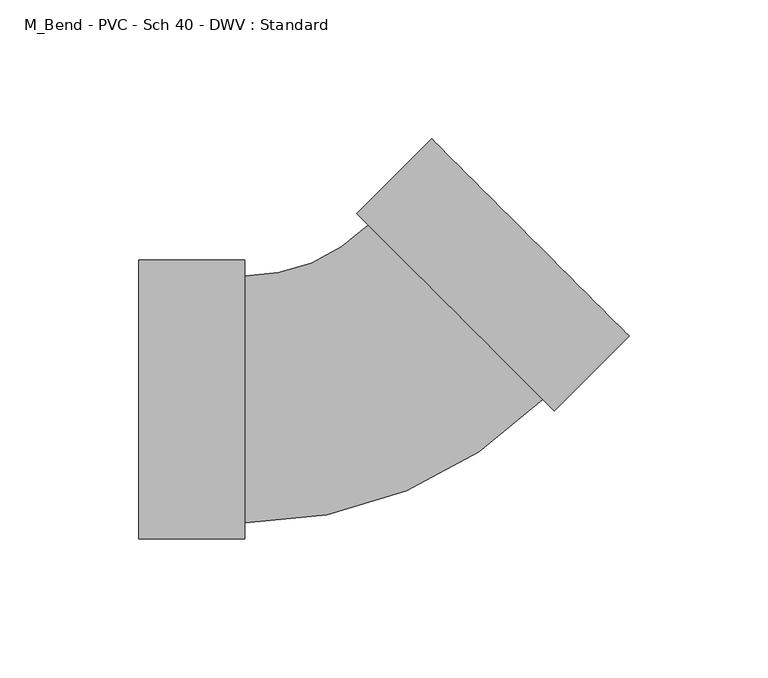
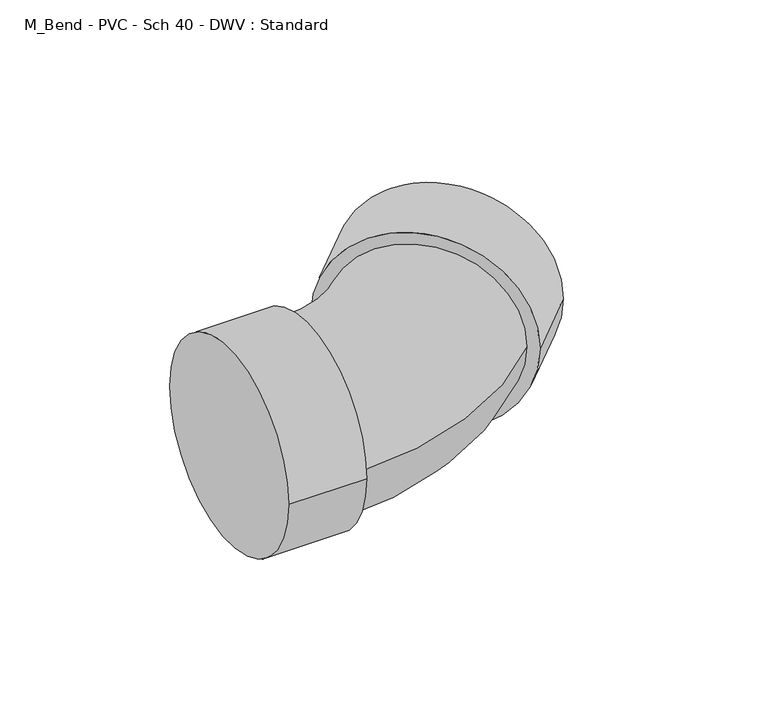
"""IFC4 building model written with IfcOpenShell, lengths in millimetres: pipe fitting geometry, M_Bend - PVC - Sch 40 - DWV : Standard."""

import ifcopenshell
import ifcopenshell.guid

model = None  # the IFC model being written
_history = None  # IfcOwnerHistory: only IFC2X3 demands one
_inside = {}  # id of a spatial element -> (the spatial element, [elements in it])
_under = {}  # id of a project, library or spatial element -> (it, [spatial elements below it])
_declared = {}  # id of a project -> (the project, [libraries it declares])
_typed = {}  # id of a type object -> (the type object, [elements of that type])
_made_of = {}  # id of a material, layer set ... -> (it, [elements and type objects made of it])


def new_model(schema):
    """Start an empty IFC model of exactly this schema.

    Asked for "IFC4X3", IfcOpenShell would pick the latest addendum, in which some entities
    have other attributes; the version numbers below select the first issue.
    IFC2X3 requires an IfcOwnerHistory on every rooted entity: one is made here for all.
    """
    global model, _history
    if schema == "IFC4X3":
        model = ifcopenshell.file(schema_version=(4, 3, 0, 0))
    else:
        model = ifcopenshell.file(schema=schema)
    _inside.clear()
    _under.clear()
    _declared.clear()
    _typed.clear()
    _made_of.clear()
    _history = None
    if model.schema == "IFC2X3":
        org = make("IfcOrganization", Name="unknown")
        user = make(
            "IfcPersonAndOrganization",
            ThePerson=make("IfcPerson", FamilyName="unknown"),
            TheOrganization=org,
        )
        app = make(
            "IfcApplication",
            ApplicationDeveloper=org,
            Version="unknown",
            ApplicationFullName="unknown",
            ApplicationIdentifier="unknown",
        )
        _history = make(
            "IfcOwnerHistory",
            OwningUser=user,
            OwningApplication=app,
            ChangeAction="ADDED",
            CreationDate=0,
        )
    return model


def make(cls, **values):
    """One entity of the class cls with the attributes given. An attribute that is None is left unset."""
    return model.create_entity(
        cls, **{name: value for name, value in values.items() if value is not None}
    )


def rooted(cls, **values):
    """An entity with a GlobalId (a new one), such as an element, a storey or a relation."""
    return make(cls, GlobalId=ifcopenshell.guid.new(), OwnerHistory=_history, **values)


def si_unit(unit_type, name, prefix=None):
    """IfcSIUnit, for example si_unit("LENGTHUNIT", "METRE", prefix="MILLI")."""
    return make("IfcSIUnit", UnitType=unit_type, Prefix=prefix, Name=name)


def assignment(units):
    """IfcUnitAssignment: the units of a project."""
    return None if units is None else make("IfcUnitAssignment", Units=units)


def point(xyz):
    """IfcCartesianPoint."""
    return None if xyz is None else make("IfcCartesianPoint", Coordinates=xyz)


def direction(xyz):
    """IfcDirection."""
    return None if xyz is None else make("IfcDirection", DirectionRatios=xyz)


def frame(location, z_axis=None, x_axis=None):
    """IfcAxis2Placement3D, a coordinate frame: its origin and axes. An axis left out is left unset."""
    return make(
        "IfcAxis2Placement3D",
        Location=point(location),
        Axis=direction(z_axis),
        RefDirection=direction(x_axis),
    )


def origin():
    """The frame at (0, 0, 0) with its axes left unset."""
    return frame((0.0, 0.0, 0.0))


def place(relative_to, where):
    """IfcLocalPlacement: puts the frame where relative to a parent placement (None: the world)."""
    return make(
        "IfcLocalPlacement", PlacementRelTo=relative_to, RelativePlacement=where
    )


def context(
    kind, dimensions, precision=None, world=None, true_north=None, identifier=None
):
    """IfcGeometricRepresentationContext, for example the 3D "Model" context."""
    return make(
        "IfcGeometricRepresentationContext",
        ContextIdentifier=identifier,
        ContextType=kind,
        CoordinateSpaceDimension=dimensions,
        Precision=precision,
        WorldCoordinateSystem=world,
        TrueNorth=true_north,
    )


def project(units=None, contexts=None):
    """IfcProject with its units and contexts."""
    return rooted(
        "IfcProject",
        Name="project",
        RepresentationContexts=contexts,
        UnitsInContext=assignment(units),
    )


def spatial(cls, under=None, at=None, **own):
    """A site, building, storey or space (cls), placed at a placement, below another one or the project."""
    s = rooted(cls, ObjectPlacement=at, **own)
    if under is not None:
        _under.setdefault(under.id(), (under, []))[1].append(s)
    return s


def circle_curve(where, radius):
    """IfcCircle in the frame where."""
    return make("IfcCircle", Position=where, Radius=radius)


def ellipse_curve(where, semi_axis1, semi_axis2):
    """IfcEllipse in the frame where."""
    return make(
        "IfcEllipse", Position=where, SemiAxis1=semi_axis1, SemiAxis2=semi_axis2
    )


def trimmed(basis, trim1, trim2, sense, master):
    """IfcTrimmedCurve: the piece of a basis curve between two trims."""
    return make(
        "IfcTrimmedCurve",
        BasisCurve=basis,
        Trim1=trim1,
        Trim2=trim2,
        SenseAgreement=sense,
        MasterRepresentation=master,
    )


def shape(context_of_items, identifier, shape_type, items):
    """IfcShapeRepresentation: the items that make up one representation, for example the "Body"."""
    return make(
        "IfcShapeRepresentation",
        ContextOfItems=context_of_items,
        RepresentationIdentifier=identifier,
        RepresentationType=shape_type,
        Items=items,
    )


def source(mapping_origin, context_of_items, identifier, shape_type, items):
    """IfcRepresentationMap: a shape defined once, which mapped items show again and again."""
    return make(
        "IfcRepresentationMap",
        MappingOrigin=mapping_origin,
        MappedRepresentation=shape(context_of_items, identifier, shape_type, items),
    )


def transform(
    local_origin,
    x_axis=None,
    y_axis=None,
    z_axis=None,
    scale=None,
    scale2=None,
    scale3=None,
    uniform=True,
):
    """IfcCartesianTransformationOperator3D, or its non-uniform kind. x_axis, y_axis, z_axis: its Axis1, 2, 3."""
    if uniform:
        return make(
            "IfcCartesianTransformationOperator3D",
            Axis1=direction(x_axis),
            Axis2=direction(y_axis),
            LocalOrigin=point(local_origin),
            Scale=scale,
            Axis3=direction(z_axis),
        )
    return make(
        "IfcCartesianTransformationOperator3DnonUniform",
        Axis1=direction(x_axis),
        Axis2=direction(y_axis),
        LocalOrigin=point(local_origin),
        Scale=scale,
        Axis3=direction(z_axis),
        Scale2=scale2,
        Scale3=scale3,
    )


def mapped(mapping_source, mapping_target):
    """IfcMappedItem: shows the shape of a source again, moved by a transform."""
    return make(
        "IfcMappedItem", MappingSource=mapping_source, MappingTarget=mapping_target
    )


def made_of(thing, what):
    """Note that an element or type object is made of a material, layer set ...; save() writes the relation."""
    if what is not None:
        _made_of.setdefault(what.id(), (what, []))[1].append(thing)
    return thing


def element(
    cls,
    number,
    at=None,
    inside=None,
    cuts=None,
    type_object=None,
    material=None,
    context=None,
    identifier="Body",
    shape_type=None,
    held_by="IfcProductDefinitionShape",
    body=None,
    shapes=None,
    **own,
):
    """One element of the class cls, such as IfcWall. Its Tag is "e" and its number.

    at: its placement. inside: the storey or other place that contains it. cuts: it is an
    opening in that element (IfcRelVoidsElement). A single representation is given by context,
    identifier, shape_type and body (its items); several are given by shapes. held_by: the class
    of the entity that holds the representations. save() writes the other relations.
    """
    e = rooted(cls, Tag="e%d" % number, ObjectPlacement=at, **own)
    if body is not None:
        shapes = [shape(context, identifier, shape_type, body)]
    if shapes is not None:
        e.Representation = make(held_by, Representations=shapes)
    if inside is not None:
        _inside.setdefault(inside.id(), (inside, []))[1].append(e)
    if cuts is not None:
        rooted(
            "IfcRelVoidsElement", RelatingBuildingElement=cuts, RelatedOpeningElement=e
        )
    if type_object is not None:
        _typed.setdefault(type_object.id(), (type_object, []))[1].append(e)
    return made_of(e, material)


def aggregate(whole, parts):
    """IfcRelAggregates: a whole, such as a stair, and the parts it consists of."""
    return rooted("IfcRelAggregates", RelatingObject=whole, RelatedObjects=parts)


def save(model, path):
    """Write the relations noted so far, then the file.

    IfcRelAggregates (storeys below a building ...), IfcRelContainedInSpatialStructure (elements
    in a storey), IfcRelDefinesByType, IfcRelAssociatesMaterial and IfcRelDeclares: one each for
    every whole, place, type object, material and project.
    """
    for whole, parts in _under.values():
        aggregate(whole, parts)
    for where, things in _inside.values():
        rooted(
            "IfcRelContainedInSpatialStructure",
            RelatedElements=things,
            RelatingStructure=where,
        )
    for kind, things in _typed.values():
        rooted("IfcRelDefinesByType", RelatedObjects=things, RelatingType=kind)
    for what, things in _made_of.values():
        rooted("IfcRelAssociatesMaterial", RelatedObjects=things, RelatingMaterial=what)
    for by, libraries in _declared.values():
        rooted("IfcRelDeclares", RelatingContext=by, RelatedDefinitions=libraries)
    model.write(path)


def plane_surface(at):
    """IfcPlane: the flat surface through the origin of the frame at, square to its z axis."""
    return make("IfcPlane", Position=at)


def cylinder_surface(at, radius):
    """IfcCylindricalSurface: all points at the distance radius from the z axis of the frame at."""
    return make("IfcCylindricalSurface", Position=at, Radius=radius)


def revolved_surface(curve, axis_point, axis_direction):
    """IfcSurfaceOfRevolution: the curve turned about the line through axis_point along axis_direction."""
    return make(
        "IfcSurfaceOfRevolution",
        SweptCurve=make("IfcArbitraryOpenProfileDef", ProfileType="CURVE", Curve=curve),
        AxisPosition=make("IfcAxis1Placement", Location=point(axis_point), Axis=direction(axis_direction)),
    )


def advanced_brep(points, edges, surfaces, faces):
    """IfcAdvancedBrep: a solid bounded by faces that lie on surfaces and meet in shared edges.

    An edge is (start, end): straight between two places in points (the first is 0);
    or (start, end, curve); or (start, end, curve, False) where it runs against its curve.
    A face is (place in surfaces, loops), or (place, loops, False) where it looks against
    its surface's normal. A loop lists edges by number (the first is 1), with a minus sign
    where the edge is run from its end to its start. The first loop is the outer one.
    """
    corners = [point(p) for p in points]
    vertices = [make("IfcVertexPoint", VertexGeometry=c) for c in corners]
    made = []
    for start, end, *more in edges:
        made.append(
            make(
                "IfcEdgeCurve",
                EdgeStart=vertices[start],
                EdgeEnd=vertices[end],
                EdgeGeometry=more[0] if more else make("IfcPolyline", Points=[corners[start], corners[end]]),
                SameSense=more[1] if len(more) > 1 else True,
            )
        )
    hull = []
    for where, loops, *sense in faces:
        bounds = []
        for j, loop in enumerate(loops):
            ring = [make("IfcOrientedEdge", EdgeElement=made[abs(k) - 1], Orientation=k > 0) for k in loop]
            bounds.append(
                make(
                    "IfcFaceOuterBound" if j == 0 else "IfcFaceBound",
                    Bound=make("IfcEdgeLoop", EdgeList=ring),
                    Orientation=True,
                )
            )
        hull.append(make("IfcAdvancedFace", Bounds=bounds, FaceSurface=surfaces[where], SameSense=sense[0] if sense else True))
    return make("IfcAdvancedBrep", Outer=make("IfcClosedShell", CfsFaces=hull))


def m_bend_pvc_sch_40_dwv_standard_4b7acc6f(model_context):
    return source(origin(), model_context, "Body", "AdvancedBrep", [
        advanced_brep(
        [(-82.55, -50.2666, 0.0), (-82.55, 50.2666, 0.0), (-44.45, -50.2666, 0.0), (-44.45, 50.2666, 0.0), (-44.45, -44.45, 0.0), (-44.45, 44.45, 0.0), (0.0, 62.8617928, 0.0), (62.8617928, 0.0, 0.0), (66.9747502, -4.1129573, 0.0), (-4.1129573, 66.9747502, 0.0), (93.9155185, 22.8278111, 0.0), (22.8278111, 93.9155185, 0.0)],
        [
            (0, 1, circle_curve(frame((-82.55, 0.0, 0.0), z_axis=(-1.0, 0.0, 0.0), x_axis=(0.0, 1.0, 0.0)), 50.2666)),
            (1, 0, circle_curve(frame((-82.55, 0.0, 0.0), z_axis=(-1.0, 0.0, 0.0), x_axis=(0.0, 1.0, 0.0)), 50.2666)),
            (2, 3, circle_curve(frame((-44.45, 0.0, 0.0), z_axis=(1.0, 0.0, 0.0), x_axis=(0.0, 1.0, 0.0)), 50.2666)),
            (3, 2, circle_curve(frame((-44.45, 0.0, 0.0), z_axis=(1.0, 0.0, 0.0), x_axis=(0.0, 1.0, 0.0)), 50.2666)),
            (4, 5, circle_curve(frame((-44.45, 0.0, 0.0), z_axis=(-1.0, 0.0, 0.0), x_axis=(0.0, 1.0, 0.0)), 44.45)),
            (5, 4, circle_curve(frame((-44.45, 0.0, 0.0), z_axis=(-1.0, 0.0, 0.0), x_axis=(0.0, 1.0, 0.0)), 44.45)),
            (0, 2),
            (3, 1),
            (6, 5, circle_curve(frame((-44.45, 107.3117928, 0.0), z_axis=(0.0, 0.0, -1.0), x_axis=(0.0, -1.0, 0.0)), 62.8617928)),
            (4, 7, circle_curve(frame((-44.45, 107.3117928, 0.0), z_axis=(0.0, 0.0, 1.0), x_axis=(0.0, -1.0, 0.0)), 151.7617928)),
            (7, 6, circle_curve(frame((31.4308964, 31.4308964, 0.0), z_axis=(-0.7071067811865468, -0.7071067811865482, 0.0), x_axis=(-0.7071067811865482, 0.7071067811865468, 0.0)), 44.45)),
            (6, 7, circle_curve(frame((31.4308964, 31.4308964, 0.0), z_axis=(-0.7071067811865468, -0.7071067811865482, 0.0), x_axis=(-0.7071067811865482, 0.7071067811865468, 0.0)), 44.45)),
            (8, 9, circle_curve(frame((31.4308964, 31.4308964, 0.0), z_axis=(-0.7071067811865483, -0.7071067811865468, 0.0), x_axis=(-0.7071067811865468, 0.7071067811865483, 0.0)), 50.2666)),
            (9, 8, circle_curve(frame((31.4308964, 31.4308964, 0.0), z_axis=(-0.7071067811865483, -0.7071067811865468, 0.0), x_axis=(-0.7071067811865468, 0.7071067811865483, 0.0)), 50.2666)),
            (10, 11, circle_curve(frame((58.3716648, 58.3716648, 0.0), z_axis=(0.7071067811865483, 0.7071067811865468, 0.0), x_axis=(-0.7071067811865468, 0.7071067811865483, 0.0)), 50.2666)),
            (11, 10, circle_curve(frame((58.3716648, 58.3716648, 0.0), z_axis=(0.7071067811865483, 0.7071067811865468, 0.0), x_axis=(-0.7071067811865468, 0.7071067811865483, 0.0)), 50.2666)),
            (8, 10),
            (11, 9),
        ],
        [
            plane_surface(frame((-82.55, 0.0, 0.0), z_axis=(-1.0, 0.0, 0.0), x_axis=(0.0, 0.0, 1.0))),
            plane_surface(frame((-44.45, 0.0, 0.0), z_axis=(1.0, 0.0, 0.0), x_axis=(0.0, 0.0, 1.0))),
            cylinder_surface(frame((-82.55, 0.0, 0.0), z_axis=(-1.0, 0.0, 0.0), x_axis=(0.0, 1.0, 0.0)), 50.2666),
            revolved_surface(trimmed(ellipse_curve(frame((-44.45, 0.0, 0.0), z_axis=(-1.0, 0.0, 0.0), x_axis=(0.0, 1.0, 0.0)), 44.45, 44.45), [point((-44.45, -44.45, 0.0))], [point((-44.45, 44.45, 0.0))], True, "CARTESIAN"), (-44.45, 107.3117928, 0.0), (0.0, 0.0, 1.0)),
            revolved_surface(trimmed(ellipse_curve(frame((-44.45, 0.0, 0.0), z_axis=(-1.0, 0.0, 0.0), x_axis=(0.0, 1.0, 0.0)), 44.45, 44.45), [point((-44.45, 44.45, 0.0))], [point((-44.45, -44.45, 0.0))], True, "CARTESIAN"), (-44.45, 107.3117928, 0.0), (0.0, 0.0, 1.0)),
            plane_surface(frame((31.4308964, 31.4308964, 0.0), z_axis=(-0.7071067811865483, -0.7071067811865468, 0.0), x_axis=(0.0, 0.0, 1.0))),
            plane_surface(frame((58.3716648, 58.3716648, 0.0), z_axis=(0.7071067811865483, 0.7071067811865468, 0.0), x_axis=(0.0, 0.0, 1.0))),
            cylinder_surface(frame((31.4308964, 31.4308964, 0.0), z_axis=(-0.7071067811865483, -0.7071067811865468, 0.0), x_axis=(-0.7071067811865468, 0.7071067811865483, 0.0)), 50.2666),
        ],
        [
            (0, [[1, 2]]),
            (1, [[3, 4], [5, 6]]),
            (2, [[-1, 7, -4, 8]]),
            (2, [[-2, -8, -3, -7]]),
            (3, [[9, -5, 10, 11]]),
            (4, [[-9, 12, -10, -6]]),
            (5, [[13, 14], [-11, -12]]),
            (6, [[15, 16]]),
            (7, [[-13, 17, -16, 18]]),
            (7, [[-14, -18, -15, -17]]),
        ],
    ),
    ])


if __name__ == "__main__":
    model = new_model("IFC4")
    model_context = context("Model", 3, world=origin())
    ifc_project = project(units=[si_unit("LENGTHUNIT", "METRE", prefix="MILLI")], contexts=[model_context])
    site = spatial("IfcSite", under=ifc_project)
    building = spatial("IfcBuilding", under=site)
    placement = place(None, origin())
    m_bend_pvc_sch_40_dwv_standard_shape = m_bend_pvc_sch_40_dwv_standard_4b7acc6f(model_context)
    element("IfcPipeFitting", 1, ObjectType="M_Bend - PVC - Sch 40 - DWV : Standard", at=placement, inside=building, context=model_context, shape_type="MappedRepresentation", body=[
        mapped(m_bend_pvc_sch_40_dwv_standard_shape, transform((0.0, 0.0, 0.0), x_axis=(1.0, 0.0, 0.0), y_axis=(0.0, 1.0, 0.0), z_axis=(0.0, 0.0, 1.0))),
    ])
    save(model, "model.ifc")
